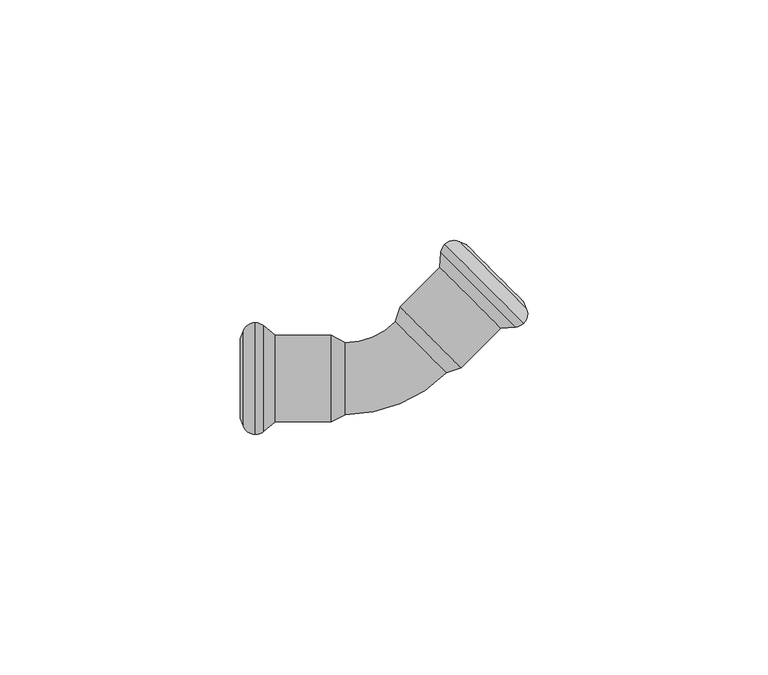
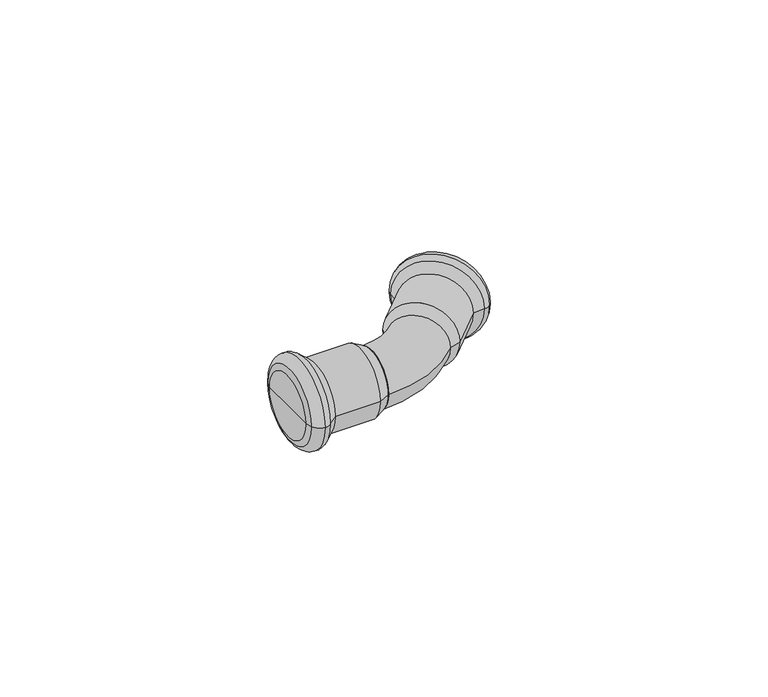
"""IFC4 building model written with IfcOpenShell, lengths in millimetres: pipe fitting geometry, KAN-therm Steel kolano 45 : KAN-therm Steel kolano 45."""

from ifc_helpers import new_model, si_unit, point, frame, origin, place, context, project, spatial, polyline, circle_curve, ellipse_curve, trimmed, source, transform, mapped, element, save
from ifc_brep_helpers import plane_surface, cylinder_surface, revolved_surface, advanced_brep


def pipe_fitting_08ccdee3(model_context):
    return source(origin(), model_context, "Body", "AdvancedBrep", [
        advanced_brep(
        [(-9.2, -7.5, 0.0), (-9.2, 7.5, 0.0), (11.8086832, 1.2020815, 0.0), (1.2020815, 11.8086832, 0.0)],
        [
            (0, 1, circle_curve(frame((-9.2, 0.0, 0.0), z_axis=(-1.0, 0.0, 0.0), x_axis=(0.0, 1.0, 0.0)), 7.5)),
            (1, 0, circle_curve(frame((-9.2, 0.0, 0.0), z_axis=(-1.0, 0.0, 0.0), x_axis=(0.0, 1.0, 0.0)), 7.5)),
            (2, 3, circle_curve(frame((6.5053824, 6.5053824, 0.0), z_axis=(0.7071067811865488, 0.7071067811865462, 0.0), x_axis=(-0.7071067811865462, 0.7071067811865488, 0.0)), 7.5)),
            (3, 2, circle_curve(frame((6.5053824, 6.5053824, 0.0), z_axis=(0.7071067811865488, 0.7071067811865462, 0.0), x_axis=(-0.7071067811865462, 0.7071067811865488, 0.0)), 7.5)),
            (3, 1, circle_curve(frame((-9.2, 22.2107648, 0.0), z_axis=(0.0, 0.0, -1.0), x_axis=(0.0, -1.0, 0.0)), 14.7107648)),
            (0, 2, circle_curve(frame((-9.2, 22.2107648, 0.0), z_axis=(0.0, 0.0, 1.0), x_axis=(0.0, -1.0, 0.0)), 29.7107648)),
        ],
        [
            plane_surface(frame((-9.2, 0.0, 0.0), z_axis=(-1.0, 0.0, 0.0), x_axis=(0.0, 0.0, 1.0))),
            plane_surface(frame((6.5053824, 6.5053824, 0.0), z_axis=(0.7071067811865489, 0.7071067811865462, 0.0), x_axis=(0.0, 0.0, 1.0))),
            revolved_surface(trimmed(ellipse_curve(frame((-9.2, 0.0, 0.0), z_axis=(-1.0, 0.0, 0.0), x_axis=(0.0, 1.0, 0.0)), 7.5, 7.5), [point((-9.2, -7.5, 0.0))], [point((-9.2, 7.5, 0.0))], True, "CARTESIAN"), (-9.2, 22.2107648, 0.0), (0.0, 0.0, 1.0)),
            revolved_surface(trimmed(ellipse_curve(frame((-9.2, 0.0, 0.0), z_axis=(-1.0, 0.0, 0.0), x_axis=(0.0, 1.0, 0.0)), 7.5, 7.5), [point((-9.2, 7.5, 0.0))], [point((-9.2, -7.5, 0.0))], True, "CARTESIAN"), (-9.2, 22.2107648, 0.0), (0.0, 0.0, 1.0)),
        ],
        [
            (0, [[1, 2]]),
            (1, [[3, 4]]),
            (2, [[5, -1, 6, -4]]),
            (3, [[-6, -2, -5, -3]]),
        ],
    ),
        advanced_brep(
        [(27.942829, 11.5025964, 0.0), (11.5025964, 27.942829, 0.0), (14.5548015, 28.4826193, 0.0), (28.4826193, 14.5548015, 0.0), (26.1836587, 10.7163731, 0.0), (10.7163731, 26.1836587, 0.0), (23.1816538, 10.4537317, 0.0), (10.4537317, 23.1816538, 0.0), (14.9327098, 2.2047877, 0.0), (2.2047877, 14.9327098, 0.0), (11.8086832, 1.2020815, 0.0), (1.2020815, 11.8086832, 0.0), (6.5053824, 6.5053824, 0.0), (27.7808326, 16.0597878, 0.0), (16.0597878, 27.7808326, 0.0), (21.9203102, 21.9203102, 0.0)],
        [
            (0, 1, circle_curve(frame((19.7227127, 19.7227127, 0.0), z_axis=(0.7071067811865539, 0.7071067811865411, 0.0), x_axis=(-0.7071067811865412, 0.707106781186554, 0.0)), 11.625)),
            (1, 2, circle_curve(frame((13.4137313, 26.0355863, 0.0), z_axis=(0.0, 0.0, -1.0000000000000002), x_axis=(0.7071067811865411, -0.7071067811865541, 0.0)), 2.7000021)),
            (2, 3, circle_curve(frame((21.5187104, 21.5187104, 0.0), z_axis=(-0.7071067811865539, -0.7071067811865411, 0.0), x_axis=(-0.7071067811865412, 0.707106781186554, 0.0)), 9.8484544)),
            (3, 0, circle_curve(frame((26.0355863, 13.4137313, 0.0), z_axis=(0.0, 0.0, -1.0000000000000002), x_axis=(-0.7071067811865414, 0.7071067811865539, 0.0)), 2.7000021)),
            (1, 0, circle_curve(frame((19.7227127, 19.7227127, 0.0), z_axis=(0.7071067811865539, 0.7071067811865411, 0.0), x_axis=(-0.7071067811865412, 0.707106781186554, 0.0)), 11.625)),
            (3, 2, circle_curve(frame((21.5187104, 21.5187104, 0.0), z_axis=(-0.7071067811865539, -0.7071067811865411, 0.0), x_axis=(-0.7071067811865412, 0.707106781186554, 0.0)), 9.8484544)),
            (4, 5, circle_curve(frame((18.4500159, 18.4500159, 0.0), z_axis=(0.7071067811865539, 0.7071067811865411, 0.0), x_axis=(-0.7071067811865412, 0.707106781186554, 0.0)), 10.9370225)),
            (5, 1, circle_curve(frame((13.4141491, 26.0332238, 0.0), z_axis=(0.0, 0.0, -1.0000000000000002), x_axis=(0.7071067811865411, -0.7071067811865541, 0.0)), 2.701967)),
            (0, 4, circle_curve(frame((26.0332238, 13.4141491, 0.0), z_axis=(0.0, 0.0, -1.0000000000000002), x_axis=(-0.7071067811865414, 0.7071067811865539, 0.0)), 2.701967)),
            (5, 4, circle_curve(frame((18.4500159, 18.4500159, 0.0), z_axis=(0.7071067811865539, 0.7071067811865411, 0.0), x_axis=(-0.7071067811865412, 0.707106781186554, 0.0)), 10.9370225)),
            (6, 7, circle_curve(frame((16.8176927, 16.8176927, 0.0), z_axis=(0.7071067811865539, 0.7071067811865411, 0.0), x_axis=(-0.7071067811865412, 0.707106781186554, 0.0)), 9.0)),
            (7, 5),
            (4, 6),
            (7, 6, circle_curve(frame((16.8176927, 16.8176927, 0.0), z_axis=(0.7071067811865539, 0.7071067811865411, 0.0), x_axis=(-0.7071067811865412, 0.707106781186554, 0.0)), 9.0)),
            (8, 9, circle_curve(frame((8.5687488, 8.5687488, 0.0), z_axis=(0.7071067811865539, 0.7071067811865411, 0.0), x_axis=(-0.7071067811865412, 0.707106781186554, 0.0)), 9.0)),
            (9, 7),
            (6, 8),
            (9, 8, circle_curve(frame((8.5687488, 8.5687488, 0.0), z_axis=(0.7071067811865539, 0.7071067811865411, 0.0), x_axis=(-0.7071067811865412, 0.707106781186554, 0.0)), 9.0)),
            (10, 11, circle_curve(frame((6.5053824, 6.5053824, 0.0), z_axis=(0.7071067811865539, 0.7071067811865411, 0.0), x_axis=(-0.7071067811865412, 0.707106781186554, 0.0)), 7.5)),
            (11, 9),
            (8, 10),
            (11, 10, circle_curve(frame((6.5053824, 6.5053824, 0.0), z_axis=(0.7071067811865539, 0.7071067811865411, 0.0), x_axis=(-0.7071067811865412, 0.707106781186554, 0.0)), 7.5)),
            (12, 11),
            (10, 12),
            (13, 14, circle_curve(frame((21.9203102, 21.9203102, 0.0), z_axis=(0.7071067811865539, 0.7071067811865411, 0.0), x_axis=(-0.7071067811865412, 0.707106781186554, 0.0)), 8.2880302)),
            (14, 15),
            (15, 13),
            (14, 13, circle_curve(frame((21.9203102, 21.9203102, 0.0), z_axis=(0.7071067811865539, 0.7071067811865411, 0.0), x_axis=(-0.7071067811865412, 0.707106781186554, 0.0)), 8.2880302)),
            (2, 14),
            (13, 3),
        ],
        [
            revolved_surface(trimmed(ellipse_curve(frame((13.4137313, 26.0355863, 0.0), z_axis=(0.0, 0.0, 1.0000000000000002), x_axis=(0.7071067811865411, -0.7071067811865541, 0.0)), 2.7000021, 2.7000021), [point((14.5548015, 28.4826193, 0.0))], [point((11.5025964, 27.942829, 0.0))], True, "CARTESIAN"), (1407.1424946, 1407.1424946, 0.0), (-0.7071067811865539, -0.7071067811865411, 0.0)),
            revolved_surface(trimmed(ellipse_curve(frame((13.4141491, 26.0332238, 0.0), z_axis=(0.0, 0.0, 1.0000000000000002), x_axis=(0.7071067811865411, -0.7071067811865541, 0.0)), 2.701967, 2.701967), [point((11.5025964, 27.942829, 0.0))], [point((10.7163731, 26.1836587, 0.0))], True, "CARTESIAN"), (1407.1424946, 1407.1424946, 0.0), (-0.7071067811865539, -0.7071067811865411, 0.0)),
            revolved_surface(polyline([(10.7163731, 26.1836587, 0.0), (10.4537317, 23.1816538, 0.0)]), (1407.1424946, 1407.1424946, 0.0), (-0.7071067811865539, -0.7071067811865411, 0.0)),
            cylinder_surface(frame((1407.1424946, 1407.1424946, 0.0), z_axis=(-0.7071067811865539, -0.7071067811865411, 0.0), x_axis=(-0.7071067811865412, 0.707106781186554, 0.0)), 9.0),
            revolved_surface(polyline([(2.2047877, 14.9327098, 0.0), (1.2020815, 11.8086832, 0.0)]), (1407.1424946, 1407.1424946, 0.0), (-0.7071067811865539, -0.7071067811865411, 0.0)),
            plane_surface(frame((6.5053824, 6.5053824, 0.0), z_axis=(-0.7071067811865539, -0.7071067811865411, 0.0), x_axis=(-0.7071067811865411, 0.7071067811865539, 0.0))),
            plane_surface(frame((21.9203102, 21.9203102, 0.0), z_axis=(0.7071067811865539, 0.7071067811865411, 0.0), x_axis=(-0.7071067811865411, 0.7071067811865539, 0.0))),
            revolved_surface(polyline([(16.0597878, 27.7808326, 0.0), (14.5548015, 28.4826193, 0.0)]), (1407.1424946, 1407.1424946, 0.0), (-0.7071067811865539, -0.7071067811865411, 0.0)),
        ],
        [
            (0, [[1, 2, 3, 4]]),
            (0, [[5, -4, 6, -2]]),
            (1, [[7, 8, -1, 9]]),
            (1, [[10, -9, -5, -8]]),
            (2, [[11, 12, -7, 13]]),
            (2, [[14, -13, -10, -12]]),
            (3, [[15, 16, -11, 17]]),
            (3, [[18, -17, -14, -16]]),
            (4, [[19, 20, -15, 21]]),
            (4, [[22, -21, -18, -20]]),
            (5, [[23, -19, 24]]),
            (5, [[-24, -22, -23]]),
            (6, [[25, 26, 27]]),
            (6, [[28, -27, -26]]),
            (7, [[-3, 29, -25, 30]]),
            (7, [[-6, -30, -28, -29]]),
        ],
    ),
        advanced_brep(
        [(-12.1180407, -9.0, 0.0), (-12.1180407, 9.0, 0.0), (-9.2, 7.5, 0.0), (-9.2, -7.5, 0.0), (-23.7838092, -9.0, 0.0), (-23.7838092, 9.0, 0.0), (-26.0922627, -10.9370225, 0.0), (-26.0922627, 10.9370225, 0.0), (-27.8921278, -11.625, 0.0), (-27.8921278, 11.625, 0.0), (-30.432052, -9.8484544, 0.0), (-30.432052, 9.8484544, 0.0), (-31.0, -8.2880302, 0.0), (-31.0, 8.2880302, 0.0), (-31.0, 0.0, 0.0), (-9.2, 0.0, 0.0)],
        [
            (0, 1, circle_curve(frame((-12.1180407, 0.0, 0.0), z_axis=(1.0, 0.0, 0.0), x_axis=(0.0, 1.0, 0.0)), 9.0)),
            (1, 2),
            (2, 3, circle_curve(frame((-9.2, 0.0, 0.0), z_axis=(-1.0, 0.0, 0.0), x_axis=(0.0, 1.0, 0.0)), 7.5)),
            (3, 0),
            (1, 0, circle_curve(frame((-12.1180407, 0.0, 0.0), z_axis=(1.0, 0.0, 0.0), x_axis=(0.0, 1.0, 0.0)), 9.0)),
            (3, 2, circle_curve(frame((-9.2, 0.0, 0.0), z_axis=(-1.0, 0.0, 0.0), x_axis=(0.0, 1.0, 0.0)), 7.5)),
            (4, 5, circle_curve(frame((-23.7838092, 0.0, 0.0), z_axis=(1.0, 0.0, 0.0), x_axis=(0.0, 1.0, 0.0)), 9.0)),
            (5, 1),
            (0, 4),
            (5, 4, circle_curve(frame((-23.7838092, 0.0, 0.0), z_axis=(1.0, 0.0, 0.0), x_axis=(0.0, 1.0, 0.0)), 9.0)),
            (6, 7, circle_curve(frame((-26.0922627, 0.0, 0.0), z_axis=(1.0, 0.0, 0.0), x_axis=(0.0, 1.0, 0.0)), 10.9370225)),
            (7, 5),
            (4, 6),
            (7, 6, circle_curve(frame((-26.0922627, 0.0, 0.0), z_axis=(1.0, 0.0, 0.0), x_axis=(0.0, 1.0, 0.0)), 10.9370225)),
            (8, 9, circle_curve(frame((-27.8921278, 0.0, 0.0), z_axis=(1.0, 0.0, 0.0), x_axis=(0.0, 1.0, 0.0)), 11.625)),
            (9, 7, circle_curve(frame((-27.8935049, 8.9230333, 0.0), z_axis=(0.0, 0.0, -1.0), x_axis=(1.0, 0.0, 0.0)), 2.701967)),
            (6, 8, circle_curve(frame((-27.8935049, -8.9230333, 0.0), z_axis=(0.0, 0.0, -1.0), x_axis=(1.0, 0.0, 0.0)), 2.701967)),
            (9, 8, circle_curve(frame((-27.8921278, 0.0, 0.0), z_axis=(1.0, 0.0, 0.0), x_axis=(0.0, 1.0, 0.0)), 11.625)),
            (10, 11, circle_curve(frame((-30.432052, 0.0, 0.0), z_axis=(1.0, 0.0, 0.0), x_axis=(0.0, 1.0, 0.0)), 9.8484544)),
            (11, 9, circle_curve(frame((-27.89488, 8.9249993, 0.0), z_axis=(0.0, 0.0, -1.0), x_axis=(1.0, 0.0, 0.0)), 2.7000021)),
            (8, 10, circle_curve(frame((-27.89488, -8.9249993, 0.0), z_axis=(0.0, 0.0, -1.0), x_axis=(1.0, 0.0, 0.0)), 2.7000021)),
            (11, 10, circle_curve(frame((-30.432052, 0.0, 0.0), z_axis=(1.0, 0.0, 0.0), x_axis=(0.0, 1.0, 0.0)), 9.8484544)),
            (12, 13, circle_curve(frame((-31.0, 0.0, 0.0), z_axis=(1.0, 0.0, 0.0), x_axis=(0.0, 1.0, 0.0)), 8.2880302)),
            (13, 11),
            (10, 12),
            (13, 12, circle_curve(frame((-31.0, 0.0, 0.0), z_axis=(1.0, 0.0, 0.0), x_axis=(0.0, 1.0, 0.0)), 8.2880302)),
            (14, 13),
            (12, 14),
            (2, 15),
            (15, 3),
        ],
        [
            revolved_surface(polyline([(-9.2, 7.5, 0.0), (-12.1180407, 9.0, 0.0)]), (1925.8954546, 0.0, 0.0), (-1.0, 0.0, 0.0)),
            cylinder_surface(frame((1925.8954546, 0.0, 0.0), z_axis=(-1.0, 0.0, 0.0), x_axis=(0.0, 1.0, 0.0)), 9.0),
            revolved_surface(polyline([(-23.7838092, 9.0, 0.0), (-26.0922627, 10.9370225, 0.0)]), (1925.8954546, 0.0, 0.0), (-1.0, 0.0, 0.0)),
            revolved_surface(trimmed(ellipse_curve(frame((-27.8935049, 8.9230333, 0.0), z_axis=(0.0, 0.0, 1.0), x_axis=(1.0, 0.0, 0.0)), 2.701967, 2.701967), [point((-26.0922627, 10.9370225, 0.0))], [point((-27.8921278, 11.625, 0.0))], True, "CARTESIAN"), (1925.8954546, 0.0, 0.0), (-1.0, 0.0, 0.0)),
            revolved_surface(trimmed(ellipse_curve(frame((-27.89488, 8.9249993, 0.0), z_axis=(0.0, 0.0, 1.0), x_axis=(1.0, 0.0, 0.0)), 2.7000021, 2.7000021), [point((-27.8921278, 11.625, 0.0))], [point((-30.432052, 9.8484544, 0.0))], True, "CARTESIAN"), (1925.8954546, 0.0, 0.0), (-1.0, 0.0, 0.0)),
            revolved_surface(polyline([(-30.432052, 9.8484544, 0.0), (-31.0, 8.2880302, 0.0)]), (1925.8954546, 0.0, 0.0), (-1.0, 0.0, 0.0)),
            plane_surface(frame((-31.0, 0.0, 0.0), z_axis=(-1.0, 0.0, 0.0), x_axis=(0.0, 1.0, 0.0))),
            plane_surface(frame((-9.2, 0.0, 0.0), z_axis=(1.0, 0.0, 0.0), x_axis=(0.0, 1.0, 0.0))),
        ],
        [
            (0, [[1, 2, 3, 4]]),
            (0, [[5, -4, 6, -2]]),
            (1, [[7, 8, -1, 9]]),
            (1, [[10, -9, -5, -8]]),
            (2, [[11, 12, -7, 13]]),
            (2, [[14, -13, -10, -12]]),
            (3, [[15, 16, -11, 17]]),
            (3, [[18, -17, -14, -16]]),
            (4, [[19, 20, -15, 21]]),
            (4, [[22, -21, -18, -20]]),
            (5, [[23, 24, -19, 25]]),
            (5, [[26, -25, -22, -24]]),
            (6, [[27, -23, 28]]),
            (6, [[-28, -26, -27]]),
            (7, [[-3, 29, 30]]),
            (7, [[-6, -30, -29]]),
        ],
    ),
    ])


if __name__ == "__main__":
    model = new_model("IFC4")
    model_context = context("Model", 3, world=origin())
    ifc_project = project(units=[si_unit("LENGTHUNIT", "METRE", prefix="MILLI")], contexts=[model_context])
    site = spatial("IfcSite", under=ifc_project)
    building = spatial("IfcBuilding", under=site)
    placement = place(None, origin())
    pipe_fitting_shape = pipe_fitting_08ccdee3(model_context)
    element("IfcPipeFitting", 1, ObjectType="KAN-therm Steel kolano 45 : KAN-therm Steel kolano 45", at=placement, inside=building, context=model_context, shape_type="MappedRepresentation", body=[
        mapped(pipe_fitting_shape, transform((0.0, 0.0, 0.0), x_axis=(1.0, 0.0, 0.0), y_axis=(0.0, 1.0, 0.0), z_axis=(0.0, 0.0, 1.0))),
    ])
    save(model, "model.ifc")
